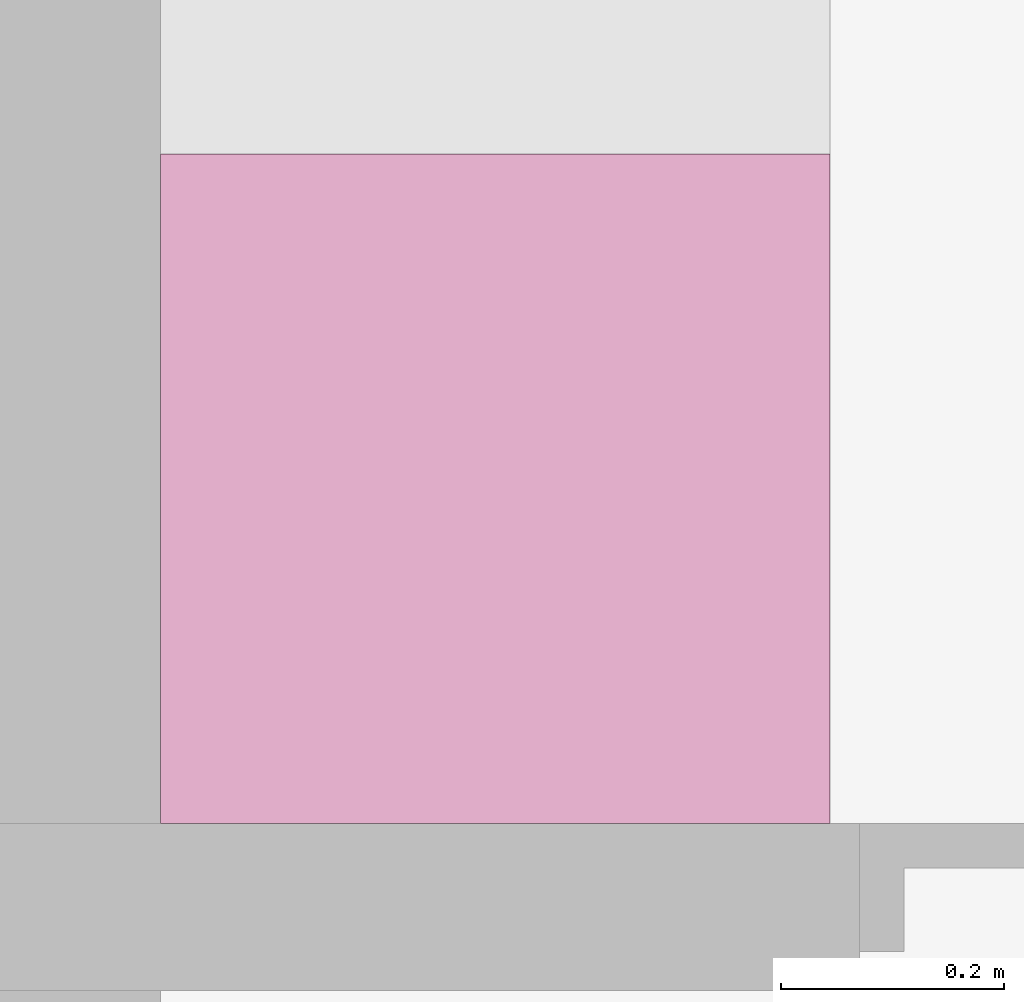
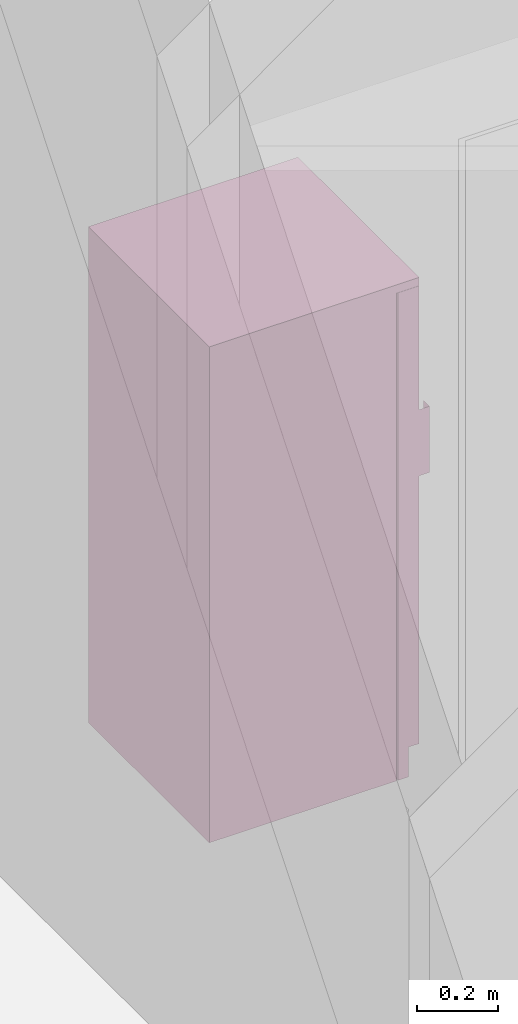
# One storey, part 110 of 165: 1 furnishing.
"""IFC2X3 building model written with IfcOpenShell, lengths in millimetres."""

import ifcopenshell
import ifcopenshell.guid

model = None  # the IFC model being written
_history = None  # IfcOwnerHistory: only IFC2X3 demands one
_inside = {}  # id of a spatial element -> (the spatial element, [elements in it])
_under = {}  # id of a project, library or spatial element -> (it, [spatial elements below it])
_declared = {}  # id of a project -> (the project, [libraries it declares])
_typed = {}  # id of a type object -> (the type object, [elements of that type])
_made_of = {}  # id of a material, layer set ... -> (it, [elements and type objects made of it])


def new_model(schema):
    """Start an empty IFC model of exactly this schema.

    Asked for "IFC4X3", IfcOpenShell would pick the latest addendum, in which some entities
    have other attributes; the version numbers below select the first issue.
    IFC2X3 requires an IfcOwnerHistory on every rooted entity: one is made here for all.
    """
    global model, _history
    if schema == "IFC4X3":
        model = ifcopenshell.file(schema_version=(4, 3, 0, 0))
    else:
        model = ifcopenshell.file(schema=schema)
    _inside.clear()
    _under.clear()
    _declared.clear()
    _typed.clear()
    _made_of.clear()
    _history = None
    if model.schema == "IFC2X3":
        org = make("IfcOrganization", Name="unknown")
        user = make(
            "IfcPersonAndOrganization",
            ThePerson=make("IfcPerson", FamilyName="unknown"),
            TheOrganization=org,
        )
        app = make(
            "IfcApplication",
            ApplicationDeveloper=org,
            Version="unknown",
            ApplicationFullName="unknown",
            ApplicationIdentifier="unknown",
        )
        _history = make(
            "IfcOwnerHistory",
            OwningUser=user,
            OwningApplication=app,
            ChangeAction="ADDED",
            CreationDate=0,
        )
    return model


def make(cls, **values):
    """One entity of the class cls with the attributes given. An attribute that is None is left unset."""
    return model.create_entity(
        cls, **{name: value for name, value in values.items() if value is not None}
    )


def entity(cls, *values):
    """Any entity or typed value of the class cls, its attributes in the order of the schema. None: left unset."""
    e = model.create_entity(cls)
    for i, value in enumerate(values):
        if value is not None:
            e[i] = value
    return e


def rooted(cls, **values):
    """An entity with a GlobalId (a new one), such as an element, a storey or a relation."""
    return make(cls, GlobalId=ifcopenshell.guid.new(), OwnerHistory=_history, **values)


def si_unit(unit_type, name, prefix=None):
    """IfcSIUnit, for example si_unit("LENGTHUNIT", "METRE", prefix="MILLI")."""
    return make("IfcSIUnit", UnitType=unit_type, Prefix=prefix, Name=name)


def converted_unit(unit_type, name, factor, base, dimensions=None, offset=None):
    """IfcConversionBasedUnit, such as the inch: factor (a typed value) times the base unit."""
    return make(
        "IfcConversionBasedUnit"
        if offset is None
        else "IfcConversionBasedUnitWithOffset",
        ConversionOffset=offset,
        Dimensions=None
        if dimensions is None
        else entity("IfcDimensionalExponents", *dimensions),
        UnitType=unit_type,
        Name=name,
        ConversionFactor=make(
            "IfcMeasureWithUnit", ValueComponent=factor, UnitComponent=base
        ),
    )


def money_unit(currency):
    """IfcMonetaryUnit."""
    return make("IfcMonetaryUnit", Currency=currency)


def assignment(units):
    """IfcUnitAssignment: the units of a project."""
    return None if units is None else make("IfcUnitAssignment", Units=units)


def point(xyz):
    """IfcCartesianPoint."""
    return None if xyz is None else make("IfcCartesianPoint", Coordinates=xyz)


def direction(xyz):
    """IfcDirection."""
    return None if xyz is None else make("IfcDirection", DirectionRatios=xyz)


def frame(location, z_axis=None, x_axis=None):
    """IfcAxis2Placement3D, a coordinate frame: its origin and axes. An axis left out is left unset."""
    return make(
        "IfcAxis2Placement3D",
        Location=point(location),
        Axis=direction(z_axis),
        RefDirection=direction(x_axis),
    )


def origin_with_axes():
    """The frame at (0, 0, 0) with the z axis (0, 0, 1) and the x axis (1, 0, 0) written out."""
    return frame((0.0, 0.0, 0.0), z_axis=(0.0, 0.0, 1.0), x_axis=(1.0, 0.0, 0.0))


def place(relative_to, where):
    """IfcLocalPlacement: puts the frame where relative to a parent placement (None: the world)."""
    return make(
        "IfcLocalPlacement", PlacementRelTo=relative_to, RelativePlacement=where
    )


def context(
    kind, dimensions, precision=None, world=None, true_north=None, identifier=None
):
    """IfcGeometricRepresentationContext, for example the 3D "Model" context."""
    return make(
        "IfcGeometricRepresentationContext",
        ContextIdentifier=identifier,
        ContextType=kind,
        CoordinateSpaceDimension=dimensions,
        Precision=precision,
        WorldCoordinateSystem=world,
        TrueNorth=true_north,
    )


def subcontext(parent, identifier, kind, view, scale=None):
    """IfcGeometricRepresentationSubContext, for example "Body" below "Model"."""
    return make(
        "IfcGeometricRepresentationSubContext",
        ContextIdentifier=identifier,
        ContextType=kind,
        ParentContext=parent,
        TargetScale=scale,
        TargetView=view,
    )


def project(units=None, contexts=None):
    """IfcProject with its units and contexts."""
    return rooted(
        "IfcProject",
        Name="project",
        RepresentationContexts=contexts,
        UnitsInContext=assignment(units),
    )


def spatial(cls, under=None, at=None, **own):
    """A site, building, storey or space (cls), placed at a placement, below another one or the project."""
    s = rooted(cls, ObjectPlacement=at, **own)
    if under is not None:
        _under.setdefault(under.id(), (under, []))[1].append(s)
    return s


def faces_of(points, faces, orient=None, outer=None):
    """IfcFace entities. A face is a list of loops; a loop is a list of indices into points, from 0.

    orient and outer hold one flag for each loop. By default every Orientation is true, the
    first loop of a face is its IfcFaceOuterBound and the others are IfcFaceBound.
    """
    made = []
    for i, loops in enumerate(faces):
        bounds = []
        for j, loop in enumerate(loops):
            is_outer = j == 0 if outer is None else outer[i][j]
            bounds.append(
                make(
                    "IfcFaceOuterBound" if is_outer else "IfcFaceBound",
                    Bound=make("IfcPolyLoop", Polygon=[points[k] for k in loop]),
                    Orientation=True if orient is None else orient[i][j],
                )
            )
        made.append(make("IfcFace", Bounds=bounds))
    return made


def open_shell(faces, orient=None, outer=None):
    """The faces of one IfcOpenShell. surface_model builds it on its shared points."""
    return ("IfcOpenShell", faces, orient, outer)


def faceted_brep(points, faces, orient=None, outer=None, voids=None):
    """IfcFacetedBrep: a solid bounded by flat faces; with voids (closed shells), ...WithVoids."""
    shared = [point(p) for p in points]
    hull = make("IfcClosedShell", CfsFaces=faces_of(shared, faces, orient, outer))
    if voids is None:
        return make("IfcFacetedBrep", Outer=hull)
    return make(
        "IfcFacetedBrepWithVoids",
        Outer=hull,
        Voids=[
            make(cls, CfsFaces=faces_of(shared, fs, o, b)) for cls, fs, o, b in voids
        ],
    )


def surface_model(cls, points, shells):
    """IfcFaceBasedSurfaceModel or IfcShellBasedSurfaceModel (cls): surfaces that need not close."""
    shared = [point(p) for p in points]
    made = [make(c, CfsFaces=faces_of(shared, fs, o, b)) for c, fs, o, b in shells]
    if cls == "IfcFaceBasedSurfaceModel":
        return make(cls, FbsmFaces=made)
    return make(cls, SbsmBoundary=made)


def shape(context_of_items, identifier, shape_type, items):
    """IfcShapeRepresentation: the items that make up one representation, for example the "Body"."""
    return make(
        "IfcShapeRepresentation",
        ContextOfItems=context_of_items,
        RepresentationIdentifier=identifier,
        RepresentationType=shape_type,
        Items=items,
    )


def source(mapping_origin, context_of_items, identifier, shape_type, items):
    """IfcRepresentationMap: a shape defined once, which mapped items show again and again."""
    return make(
        "IfcRepresentationMap",
        MappingOrigin=mapping_origin,
        MappedRepresentation=shape(context_of_items, identifier, shape_type, items),
    )


def transform(
    local_origin,
    x_axis=None,
    y_axis=None,
    z_axis=None,
    scale=None,
    scale2=None,
    scale3=None,
    uniform=True,
):
    """IfcCartesianTransformationOperator3D, or its non-uniform kind. x_axis, y_axis, z_axis: its Axis1, 2, 3."""
    if uniform:
        return make(
            "IfcCartesianTransformationOperator3D",
            Axis1=direction(x_axis),
            Axis2=direction(y_axis),
            LocalOrigin=point(local_origin),
            Scale=scale,
            Axis3=direction(z_axis),
        )
    return make(
        "IfcCartesianTransformationOperator3DnonUniform",
        Axis1=direction(x_axis),
        Axis2=direction(y_axis),
        LocalOrigin=point(local_origin),
        Scale=scale,
        Axis3=direction(z_axis),
        Scale2=scale2,
        Scale3=scale3,
    )


def mapped(mapping_source, mapping_target):
    """IfcMappedItem: shows the shape of a source again, moved by a transform."""
    return make(
        "IfcMappedItem", MappingSource=mapping_source, MappingTarget=mapping_target
    )


def material(Name=None, Category=None):
    """IfcMaterial."""
    return make("IfcMaterial", Name=Name, Category=Category)


def material_list(materials):
    """IfcMaterialList."""
    return make("IfcMaterialList", Materials=materials)


def made_of(thing, what):
    """Note that an element or type object is made of a material, layer set ...; save() writes the relation."""
    if what is not None:
        _made_of.setdefault(what.id(), (what, []))[1].append(thing)
    return thing


def type_object(cls, material=None, **own):
    """A type object (cls), such as IfcWallType, which elements share."""
    return made_of(rooted(cls, **own), material)


def element(
    cls,
    number,
    at=None,
    inside=None,
    cuts=None,
    type_object=None,
    material=None,
    context=None,
    identifier="Body",
    shape_type=None,
    held_by="IfcProductDefinitionShape",
    body=None,
    shapes=None,
    **own,
):
    """One element of the class cls, such as IfcWall. Its Tag is "e" and its number.

    at: its placement. inside: the storey or other place that contains it. cuts: it is an
    opening in that element (IfcRelVoidsElement). A single representation is given by context,
    identifier, shape_type and body (its items); several are given by shapes. held_by: the class
    of the entity that holds the representations. save() writes the other relations.
    """
    e = rooted(cls, Tag="e%d" % number, ObjectPlacement=at, **own)
    if body is not None:
        shapes = [shape(context, identifier, shape_type, body)]
    if shapes is not None:
        e.Representation = make(held_by, Representations=shapes)
    if inside is not None:
        _inside.setdefault(inside.id(), (inside, []))[1].append(e)
    if cuts is not None:
        rooted(
            "IfcRelVoidsElement", RelatingBuildingElement=cuts, RelatedOpeningElement=e
        )
    if type_object is not None:
        _typed.setdefault(type_object.id(), (type_object, []))[1].append(e)
    return made_of(e, material)


def aggregate(whole, parts):
    """IfcRelAggregates: a whole, such as a stair, and the parts it consists of."""
    return rooted("IfcRelAggregates", RelatingObject=whole, RelatedObjects=parts)


def save(model, path):
    """Write the relations noted so far, then the file.

    IfcRelAggregates (storeys below a building ...), IfcRelContainedInSpatialStructure (elements
    in a storey), IfcRelDefinesByType, IfcRelAssociatesMaterial and IfcRelDeclares: one each for
    every whole, place, type object, material and project.
    """
    for whole, parts in _under.values():
        aggregate(whole, parts)
    for where, things in _inside.values():
        rooted(
            "IfcRelContainedInSpatialStructure",
            RelatedElements=things,
            RelatingStructure=where,
        )
    for kind, things in _typed.values():
        rooted("IfcRelDefinesByType", RelatedObjects=things, RelatingType=kind)
    for what, things in _made_of.values():
        rooted("IfcRelAssociatesMaterial", RelatedObjects=things, RelatingMaterial=what)
    for by, libraries in _declared.values():
        rooted("IfcRelDeclares", RelatingContext=by, RelatedDefinitions=libraries)
    model.write(path)


model = new_model("IFC2X3")

# Units and contexts
model_context = context("Model", 3, precision=1e-05, world=origin_with_axes(), true_north=direction((0.0, 1.0)))
body_context = subcontext(model_context, "Body", "Model", "MODEL_VIEW")
ifc_project = project(units=[si_unit("LENGTHUNIT", "METRE", prefix="MILLI"), si_unit("AREAUNIT", "SQUARE_METRE"), si_unit("VOLUMEUNIT", "CUBIC_METRE"), converted_unit("PLANEANGLEUNIT", "DEGREE", entity("IfcPlaneAngleMeasure", 0.0174532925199), si_unit("PLANEANGLEUNIT", "RADIAN"), dimensions=[0, 0, 0, 0, 0, 0, 0]), si_unit("SOLIDANGLEUNIT", "STERADIAN"), money_unit("USD"), converted_unit("TIMEUNIT", "Year", entity("IfcTimeMeasure", 31556926.0), si_unit("TIMEUNIT", "SECOND"), dimensions=[0, 0, 0, 0, 0, 0, 0]), si_unit("MASSUNIT", "GRAM"), si_unit("THERMODYNAMICTEMPERATUREUNIT", "DEGREE_CELSIUS"), si_unit("LUMINOUSINTENSITYUNIT", "LUMEN")], contexts=[model_context])

# Site, building, storey
site_placement = place(None, origin_with_axes())
site = spatial("IfcSite", under=ifc_project, at=site_placement, Name="Site", CompositionType="ELEMENT")
building_placement = place(site_placement, origin_with_axes())
building = spatial("IfcBuilding", under=site, at=building_placement, Name="Building", CompositionType="ELEMENT")
storey_placement = place(building_placement, frame((0.0, 0.0, 6300.0), z_axis=(0.0, 0.0, 1.0), x_axis=(1.0, 0.0, 0.0)))
storey = spatial("IfcBuildingStorey", under=building, at=storey_placement, Name="4KORRUS", CompositionType="ELEMENT", Elevation=6300.0)

# Furnishing
ifc_material = material(Name="Background")
ifc_material_list = material_list([ifc_material])
furnishing_element_type = type_object("IfcFurnishingElementType", Name="Refrigerator 19")
shared_shape = source(origin_with_axes(), body_context, "Body", "SurfaceModel", [
    faceted_brep([(0.0, 0.0, 1475.0), (0.0, 0.0, 1500.0), (-600.0, 0.0, 1500.0), (-600.0, 0.0, 1475.0), (0.0, 600.0, 1475.0), (0.0, 600.0, 1500.0), (-600.0, 600.0, 1500.0), (-600.0, 600.0, 1475.0)], [[[0, 1, 2, 3]], [[4, 5, 1, 0]], [[1, 5, 6, 2]], [[3, 2, 6, 7]], [[0, 3, 7, 4]], [[7, 6, 5, 4]]]),
    faceted_brep([(0.0, 65.0, 0.0), (0.0, 65.0, 1475.0), (-600.0, 65.0, 1475.0), (-600.0, 65.0, 0.0), (0.0, 600.0, 0.0), (0.0, 600.0, 1475.0), (-600.0, 600.0, 1475.0), (-600.0, 600.0, 0.0)], [[[0, 1, 2, 3]], [[4, 5, 1, 0]], [[1, 5, 6, 2]], [[3, 2, 6, 7]], [[0, 3, 7, 4]], [[7, 6, 5, 4]]]),
    faceted_brep([(0.0, 30.0, 0.0), (0.0, 30.0, 90.0), (-600.0, 30.0, 90.0), (-600.0, 30.0, 0.0), (0.0, 60.0, 0.0), (0.0, 60.0, 90.0), (-600.0, 60.0, 90.0), (-600.0, 60.0, 0.0)], [[[0, 1, 2, 3]], [[4, 5, 1, 0]], [[1, 5, 6, 2]], [[3, 2, 6, 7]], [[0, 3, 7, 4]], [[7, 6, 5, 4]]]),
    faceted_brep([(0.0, 60.0, 90.0), (0.0, 0.0, 90.0), (-600.0, 0.0, 90.0), (-600.0, 60.0, 90.0), (0.0, 60.0, 1474.5), (0.0, 0.0, 1474.5), (-600.0, 0.0, 1474.5), (-600.0, 60.0, 1474.5)], [[[0, 1, 2, 3]], [[4, 5, 1, 0]], [[1, 5, 6, 2]], [[3, 2, 6, 7]], [[0, 3, 7, 4]], [[7, 6, 5, 4]]]),
    surface_model("IfcShellBasedSurfaceModel", [(-600.0, -30.0, 900.0), (-600.0, 0.0, 900.0), (-600.0, 0.0, 1100.0), (-600.0, -30.0, 1100.0)], [open_shell([[[0, 1, 2, 3]]])]),
    surface_model("IfcShellBasedSurfaceModel", [(-600.0, -30.0, 900.0), (-570.0, -30.0, 900.0), (-570.0, -30.0, 1100.0), (-600.0, -30.0, 1100.0)], [open_shell([[[0, 1, 2, 3]]])]),
])
furnishing_placement = place(storey_placement, frame((-17240.2967033, -8465.57320461, 100.0), z_axis=(0.0, 0.0, 1.0), x_axis=(0.0, 1.0, 0.0)))
element("IfcFurnishingElement", 1, at=furnishing_placement, inside=storey, type_object=furnishing_element_type, material=ifc_material_list, Name="FU - 007", context=body_context, shape_type="MappedRepresentation", body=[
    mapped(shared_shape, transform((0.0, 0.0, 0.0))),
])

save(model, "model.ifc")
